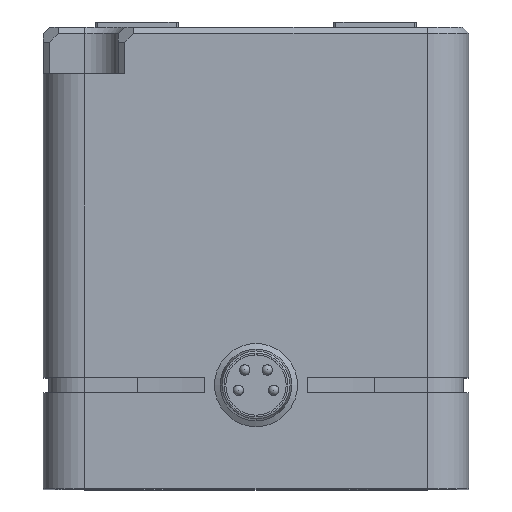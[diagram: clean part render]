
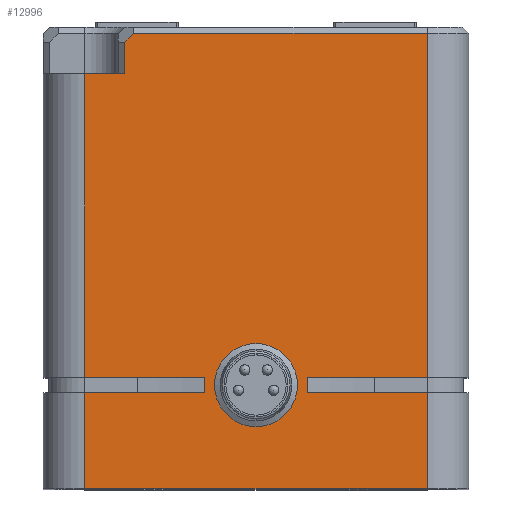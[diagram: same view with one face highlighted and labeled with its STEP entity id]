
A CAD part, top view. The second image highlights one B-rep face of the part: STEP entity #12996.
In plain terms, the highlighted planar face has unit normal (0, 0, 1).
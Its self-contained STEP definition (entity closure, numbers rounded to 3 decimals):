
#1386=PLANE('',#13547);
#2050=FACE_OUTER_BOUND('',#2814,.T.);
#2814=EDGE_LOOP('',(#11804,#11805,#11806,#11807,#11808,#11809,#11810,#11811,
#11812,#11813,#11814,#11815,#11816,#11817,#11818));
#3824=LINE('',#28358,#4944);
#3830=LINE('',#28382,#4950);
#3831=LINE('',#28386,#4951);
#3847=LINE('',#28428,#4967);
#3849=LINE('',#28438,#4969);
#3850=LINE('',#28440,#4970);
#3853=LINE('',#28450,#4973);
#3855=LINE('',#28457,#4975);
#3857=LINE('',#28463,#4977);
#3878=LINE('',#28514,#4998);
#3905=LINE('',#28571,#5025);
#3919=LINE('',#28605,#5039);
#3926=LINE('',#28619,#5046);
#3927=LINE('',#28622,#5047);
#3928=LINE('',#28623,#5048);
#4944=VECTOR('',#15269,10.);
#4950=VECTOR('',#15287,10.);
#4951=VECTOR('',#15292,10.);
#4967=VECTOR('',#15338,10.);
#4969=VECTOR('',#15348,10.);
#4970=VECTOR('',#15349,10.);
#4973=VECTOR('',#15358,10.);
#4975=VECTOR('',#15366,10.);
#4977=VECTOR('',#15372,10.);
#4998=VECTOR('',#15417,10.);
#5025=VECTOR('',#15468,10.);
#5039=VECTOR('',#15504,10.);
#5046=VECTOR('',#15517,10.);
#5047=VECTOR('',#15522,10.);
#5048=VECTOR('',#15523,10.);
#6375=VERTEX_POINT('',#28355);
#6376=VERTEX_POINT('',#28357);
#6387=VERTEX_POINT('',#28379);
#6388=VERTEX_POINT('',#28381);
#6389=VERTEX_POINT('',#28385);
#6400=VERTEX_POINT('',#28427);
#6404=VERTEX_POINT('',#28436);
#6405=VERTEX_POINT('',#28439);
#6409=VERTEX_POINT('',#28449);
#6411=VERTEX_POINT('',#28455);
#6413=VERTEX_POINT('',#28461);
#6429=VERTEX_POINT('',#28510);
#6431=VERTEX_POINT('',#28513);
#6458=VERTEX_POINT('',#28603);
#6462=VERTEX_POINT('',#28618);
#8162=EDGE_CURVE('',#6376,#6375,#3824,.T.);
#8174=EDGE_CURVE('',#6388,#6387,#3830,.T.);
#8176=EDGE_CURVE('',#6387,#6389,#3831,.T.);
#8197=EDGE_CURVE('',#6400,#6376,#3847,.T.);
#8202=EDGE_CURVE('',#6389,#6404,#3849,.T.);
#8203=EDGE_CURVE('',#6405,#6400,#3850,.T.);
#8208=EDGE_CURVE('',#6388,#6409,#3853,.T.);
#8212=EDGE_CURVE('',#6411,#6404,#3855,.T.);
#8215=EDGE_CURVE('',#6413,#6375,#3857,.T.);
#8239=EDGE_CURVE('',#6431,#6429,#3878,.T.);
#8269=EDGE_CURVE('',#6431,#6413,#3905,.T.);
#8286=EDGE_CURVE('',#6458,#6429,#3919,.T.);
#8293=EDGE_CURVE('',#6405,#6462,#3926,.T.);
#8295=EDGE_CURVE('',#6411,#6462,#3927,.T.);
#8296=EDGE_CURVE('',#6458,#6409,#3928,.T.);
#11804=ORIENTED_EDGE('',*,*,#8202,.T.);
#11805=ORIENTED_EDGE('',*,*,#8212,.F.);
#11806=ORIENTED_EDGE('',*,*,#8295,.T.);
#11807=ORIENTED_EDGE('',*,*,#8293,.F.);
#11808=ORIENTED_EDGE('',*,*,#8203,.T.);
#11809=ORIENTED_EDGE('',*,*,#8197,.T.);
#11810=ORIENTED_EDGE('',*,*,#8162,.T.);
#11811=ORIENTED_EDGE('',*,*,#8215,.F.);
#11812=ORIENTED_EDGE('',*,*,#8269,.F.);
#11813=ORIENTED_EDGE('',*,*,#8239,.T.);
#11814=ORIENTED_EDGE('',*,*,#8286,.F.);
#11815=ORIENTED_EDGE('',*,*,#8296,.T.);
#11816=ORIENTED_EDGE('',*,*,#8208,.F.);
#11817=ORIENTED_EDGE('',*,*,#8174,.T.);
#11818=ORIENTED_EDGE('',*,*,#8176,.T.);
#12996=ADVANCED_FACE('',(#2050),#1386,.T.);
#13547=AXIS2_PLACEMENT_3D('',#28621,#15520,#15521);
#15269=DIRECTION('',(1.,0.,0.));
#15287=DIRECTION('',(1.,0.,0.));
#15292=DIRECTION('',(0.,-1.,0.));
#15338=DIRECTION('',(0.,1.,0.));
#15348=DIRECTION('',(-1.,0.,0.));
#15349=DIRECTION('',(-1.,0.,0.));
#15358=DIRECTION('',(0.,1.,0.));
#15366=DIRECTION('',(0.,1.,0.));
#15372=DIRECTION('',(0.,-1.,0.));
#15417=DIRECTION('',(-0.707,-0.707,0.));
#15468=DIRECTION('',(1.,0.,0.));
#15504=DIRECTION('',(0.,1.,0.));
#15517=DIRECTION('',(0.,-1.,0.));
#15520=DIRECTION('center_axis',(0.,0.,1.));
#15521=DIRECTION('ref_axis',(1.,0.,0.));
#15522=DIRECTION('',(1.,0.,0.));
#15523=DIRECTION('',(-1.,0.,0.));
#28355=CARTESIAN_POINT('',(16.5,10.75,30.));
#28357=CARTESIAN_POINT('',(5.,10.75,30.));
#28358=CARTESIAN_POINT('',(-10.25,10.75,30.));
#28379=CARTESIAN_POINT('',(-5.,10.75,30.));
#28381=CARTESIAN_POINT('',(-16.5,10.75,30.));
#28382=CARTESIAN_POINT('',(-10.25,10.75,30.));
#28385=CARTESIAN_POINT('',(-5.,9.25,30.));
#28386=CARTESIAN_POINT('',(-5.,10.,30.));
#28427=CARTESIAN_POINT('',(5.,9.25,30.));
#28428=CARTESIAN_POINT('',(5.,10.,30.));
#28436=CARTESIAN_POINT('',(-16.5,9.25,30.));
#28438=CARTESIAN_POINT('',(-10.25,9.25,30.));
#28439=CARTESIAN_POINT('',(16.5,9.25,30.));
#28440=CARTESIAN_POINT('',(-10.25,9.25,30.));
#28449=CARTESIAN_POINT('',(-16.5,40.,30.));
#28450=CARTESIAN_POINT('',(-16.5,0.,30.));
#28455=CARTESIAN_POINT('',(-16.5,0.,30.));
#28457=CARTESIAN_POINT('',(-16.5,0.,30.));
#28461=CARTESIAN_POINT('',(16.5,43.9,30.));
#28463=CARTESIAN_POINT('',(16.5,0.,30.));
#28510=CARTESIAN_POINT('',(-12.65,43.034,30.));
#28513=CARTESIAN_POINT('',(-11.784,43.9,30.));
#28514=CARTESIAN_POINT('',(-25.004,30.679,30.));
#28571=CARTESIAN_POINT('',(-10.25,43.9,30.));
#28603=CARTESIAN_POINT('',(-12.65,40.,30.));
#28605=CARTESIAN_POINT('',(-12.65,22.25,30.));
#28618=CARTESIAN_POINT('',(16.5,0.,30.));
#28619=CARTESIAN_POINT('',(16.5,0.,30.));
#28621=CARTESIAN_POINT('Origin',(-20.5,0.,30.));
#28622=CARTESIAN_POINT('',(-20.5,0.,30.));
#28623=CARTESIAN_POINT('',(-10.25,40.,30.));
